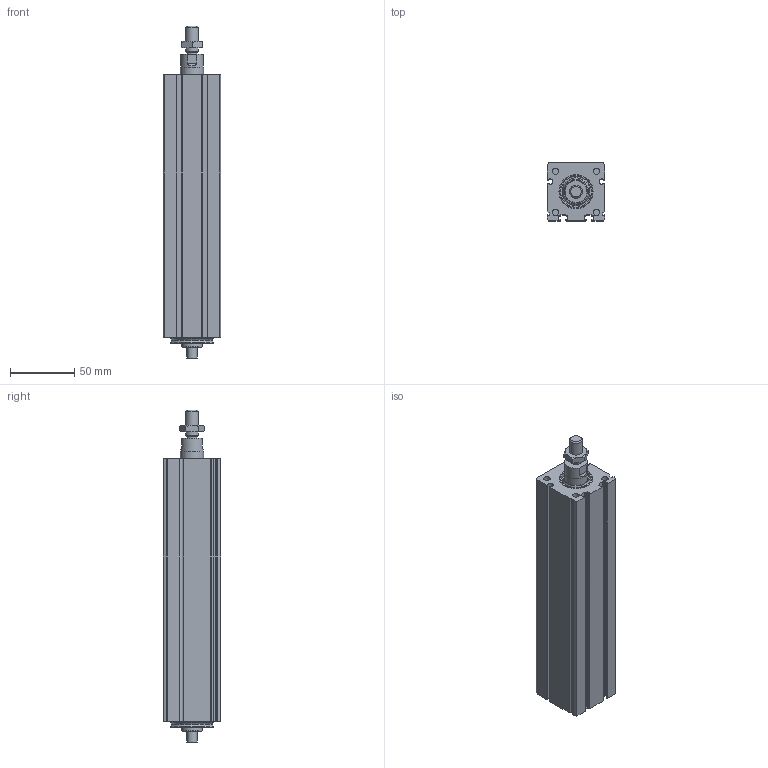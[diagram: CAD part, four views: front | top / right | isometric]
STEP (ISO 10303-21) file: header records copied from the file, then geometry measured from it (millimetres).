
FILE_DESCRIPTION(/* description */ ('STEP AP214'),/* implementation_level */ '2;1');
FILE_NAME(/* name */ 'MCE 45 1003 125 0(0)',/* time_stamp */ '2023-10-05T14:24:50+02:00',/* author */ ('License CC BY-ND 4.0'),/* organization */ ('CADENAS'),/* preprocessor_version */ 'ST-DEVELOPER v19.3',/* originating_system */ 'PARTsolutions',/* authorisation */ ' ');
FILE_SCHEMA (('AUTOMOTIVE_DESIGN {1 0 10303 214 3 1 1}'));
Length unit declared in the file: millimetre
Products named in the file (4): MCE 45 1003 125  0(0); 45_nut; 45(1250)_rod; 45(125)_msc
Assembly tree (3 placements, depth 2):
  MCE 45 1003 125  0(0)
    45_nut
    45(1250)_rod
    45(125)_msc
Bounding box: 45 x 45 x 259 mm (x, y, z)
Volume: 332294.8 mm3; surface area: 90374 mm2
Topology: 3 solids, 3 shells, 212 faces, 525 edges, 341 vertices
Faces by surface type: plane 92, cylinder 92, cone 23, torus 5
Full cylindrical faces by diameter (mm): 3.242 x4, 4.917 x4, 8 x2, 8.376 x1, 10 x1, 16 x1, 17.8 x1, 18 x2, 24 x1, 24.5 x1, 32.5 x2, 34 x2
Entity records: 6269 total; most frequent: CARTESIAN_POINT 1132, DIRECTION 1108, ORIENTED_EDGE 970, EDGE_CURVE 485, AXIS2_PLACEMENT_3D 433, VERTEX_POINT 339, EDGE_LOOP 274, FACE_BOUND 274
